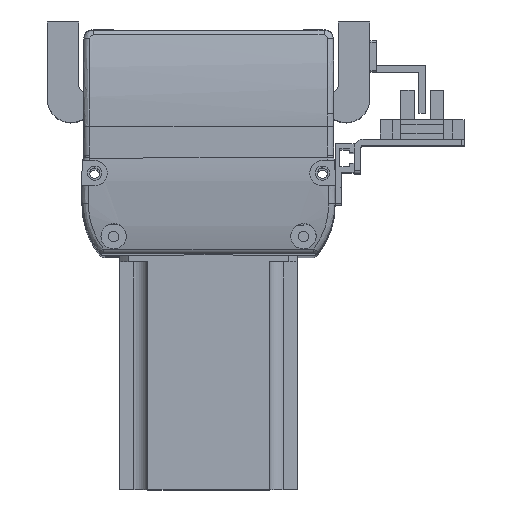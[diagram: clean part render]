
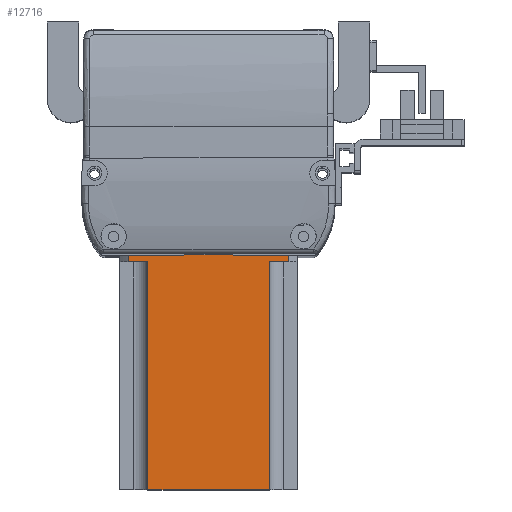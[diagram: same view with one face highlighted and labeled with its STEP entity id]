
A CAD part, top view. The second image highlights one B-rep face of the part: STEP entity #12716.
In plain terms, the highlighted planar face has unit normal (0, 0, 1).
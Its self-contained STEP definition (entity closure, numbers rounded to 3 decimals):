
#714 = CARTESIAN_POINT ( 'NONE',  ( -53.419, -32.571, 523. ) ) ;
#757 = VERTEX_POINT ( 'NONE', #7909 ) ;
#910 = ORIENTED_EDGE ( 'NONE', *, *, #24440, .T. ) ;
#1389 = ORIENTED_EDGE ( 'NONE', *, *, #8387, .T. ) ;
#1804 = CARTESIAN_POINT ( 'NONE',  ( -6.279, -104.571, 523. ) ) ;
#2479 = CARTESIAN_POINT ( 'NONE',  ( -50.738, -32.571, 523. ) ) ;
#3020 = DIRECTION ( 'NONE',  ( 1., 0., 0. ) ) ;
#3126 = DIRECTION ( 'NONE',  ( 0., 0., 1. ) ) ;
#3465 = VECTOR ( 'NONE', #29356, 1000. ) ;
#4528 = EDGE_LOOP ( 'NONE', ( #23195, #8166, #1389, #14387, #17868, #910, #9734, #16202 ) ) ;
#5250 = CARTESIAN_POINT ( 'NONE',  ( -6.279, -32.571, 523. ) ) ;
#5806 = VERTEX_POINT ( 'NONE', #5250 ) ;
#5977 = DIRECTION ( 'NONE',  ( 0., 1., 0. ) ) ;
#6163 = EDGE_CURVE ( 'NONE', #757, #18367, #9528, .T. ) ;
#7630 = DIRECTION ( 'NONE',  ( 0., 1., 0. ) ) ;
#7909 = CARTESIAN_POINT ( 'NONE',  ( -50.738, -27.571, 523. ) ) ;
#8166 = ORIENTED_EDGE ( 'NONE', *, *, #6163, .T. ) ;
#8277 = CARTESIAN_POINT ( 'NONE',  ( -53.419, -27.571, 523. ) ) ;
#8387 = EDGE_CURVE ( 'NONE', #18367, #13844, #14811, .T. ) ;
#8537 = CARTESIAN_POINT ( 'NONE',  ( -53.419, -104.571, 523. ) ) ;
#9528 = LINE ( 'NONE', #22564, #3465 ) ;
#9665 = LINE ( 'NONE', #22988, #27066 ) ;
#9734 = ORIENTED_EDGE ( 'NONE', *, *, #19394, .T. ) ;
#10040 = DIRECTION ( 'NONE',  ( 1., 0., 0. ) ) ;
#10222 = AXIS2_PLACEMENT_3D ( 'NONE', #24906, #3126, #19086 ) ;
#10826 = DIRECTION ( 'NONE',  ( 1., 0., 0. ) ) ;
#12111 = CARTESIAN_POINT ( 'NONE',  ( -6.279, -104.571, 523. ) ) ;
#12332 = CARTESIAN_POINT ( 'NONE',  ( -53.419, -32.571, 523. ) ) ;
#12716 = ADVANCED_FACE ( 'NONE', ( #14884 ), #16761, .T. ) ;
#13387 = VECTOR ( 'NONE', #10040, 1000. ) ;
#13844 = VERTEX_POINT ( 'NONE', #19416 ) ;
#14191 = CARTESIAN_POINT ( 'NONE',  ( -0.1, -32.571, 523. ) ) ;
#14387 = ORIENTED_EDGE ( 'NONE', *, *, #15214, .T. ) ;
#14798 = VERTEX_POINT ( 'NONE', #1804 ) ;
#14811 = LINE ( 'NONE', #12332, #13387 ) ;
#14884 = FACE_OUTER_BOUND ( 'NONE', #4528, .T. ) ;
#15214 = EDGE_CURVE ( 'NONE', #13844, #27680, #9665, .T. ) ;
#15488 = EDGE_CURVE ( 'NONE', #27680, #14798, #28118, .T. ) ;
#15757 = VERTEX_POINT ( 'NONE', #14191 ) ;
#16202 = ORIENTED_EDGE ( 'NONE', *, *, #23705, .T. ) ;
#16307 = LINE ( 'NONE', #8277, #21663 ) ;
#16761 = PLANE ( 'NONE',  #10222 ) ;
#17302 = CARTESIAN_POINT ( 'NONE',  ( -0.1, -104.571, 523. ) ) ;
#17868 = ORIENTED_EDGE ( 'NONE', *, *, #15488, .T. ) ;
#18094 = EDGE_CURVE ( 'NONE', #20944, #757, #16307, .T. ) ;
#18100 = LINE ( 'NONE', #12111, #21316 ) ;
#18367 = VERTEX_POINT ( 'NONE', #2479 ) ;
#18826 = LINE ( 'NONE', #714, #28720 ) ;
#19086 = DIRECTION ( 'NONE',  ( 1., 0., 0. ) ) ;
#19394 = EDGE_CURVE ( 'NONE', #5806, #15757, #18826, .T. ) ;
#19416 = CARTESIAN_POINT ( 'NONE',  ( -44.559, -32.571, 523. ) ) ;
#20824 = DIRECTION ( 'NONE',  ( 0., -1., 0. ) ) ;
#20944 = VERTEX_POINT ( 'NONE', #24732 ) ;
#21316 = VECTOR ( 'NONE', #7630, 1000. ) ;
#21663 = VECTOR ( 'NONE', #26448, 1000. ) ;
#22045 = VECTOR ( 'NONE', #5977, 1000. ) ;
#22564 = CARTESIAN_POINT ( 'NONE',  ( -50.738, -104.571, 523. ) ) ;
#22988 = CARTESIAN_POINT ( 'NONE',  ( -44.559, -104.571, 523. ) ) ;
#23195 = ORIENTED_EDGE ( 'NONE', *, *, #18094, .T. ) ;
#23705 = EDGE_CURVE ( 'NONE', #15757, #20944, #28038, .T. ) ;
#24440 = EDGE_CURVE ( 'NONE', #14798, #5806, #18100, .T. ) ;
#24732 = CARTESIAN_POINT ( 'NONE',  ( -0.1, -27.571, 523. ) ) ;
#24906 = CARTESIAN_POINT ( 'NONE',  ( -53.419, -104.571, 523. ) ) ;
#26448 = DIRECTION ( 'NONE',  ( -1., 0., 0. ) ) ;
#27066 = VECTOR ( 'NONE', #20824, 1000. ) ;
#27406 = VECTOR ( 'NONE', #10826, 1000. ) ;
#27680 = VERTEX_POINT ( 'NONE', #27735 ) ;
#27735 = CARTESIAN_POINT ( 'NONE',  ( -44.559, -104.571, 523. ) ) ;
#28038 = LINE ( 'NONE', #17302, #22045 ) ;
#28118 = LINE ( 'NONE', #8537, #27406 ) ;
#28720 = VECTOR ( 'NONE', #3020, 1000. ) ;
#29356 = DIRECTION ( 'NONE',  ( 0., -1., 0. ) ) ;
